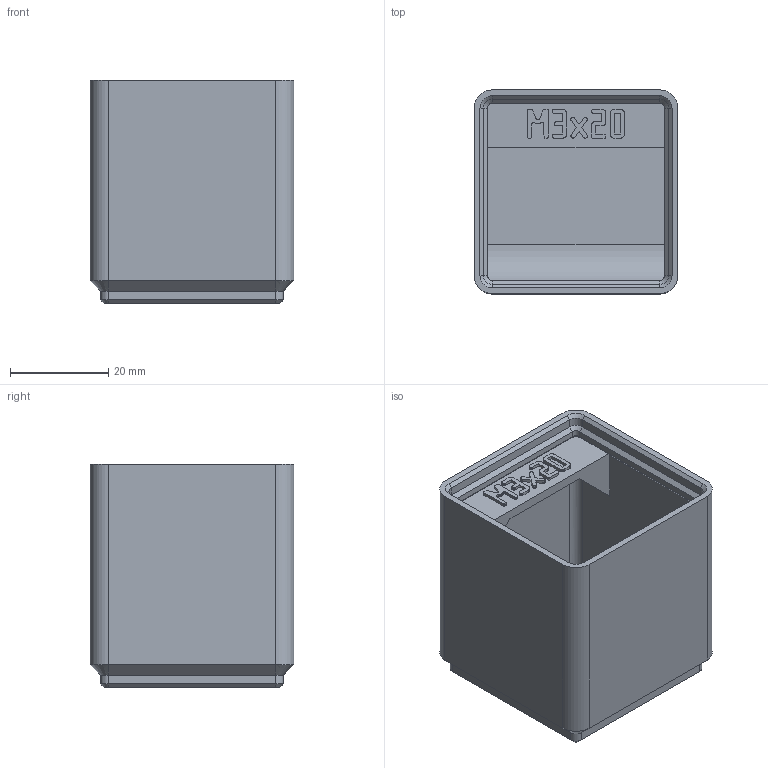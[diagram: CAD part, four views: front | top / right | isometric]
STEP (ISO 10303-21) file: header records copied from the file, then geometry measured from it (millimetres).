
FILE_DESCRIPTION(('Open CASCADE Model'),'2;1');
FILE_NAME('Open CASCADE Shape Model','2026-11-03T10:36:13',('Author'),( 'Open CASCADE'),'Open CASCADE STEP processor 8.0','build123d', 'Unknown');
FILE_SCHEMA(('AUTOMOTIVE_DESIGN { 1 0 10303 214 1 1 1 1 }'));
Length unit declared in the file: millimetre
Products named in the file (1): COMPOUND
Bounding box: 41.5 x 41.5 x 45.55 mm (x, y, z)
Volume: 24945.9 mm3; surface area: 16513.3 mm2
Topology: 1 solids, 1 shells, 617 faces, 1764 edges, 1156 vertices
Faces by surface type: plane 576, cylinder 21, cone 20
Entity records: 41641 total; most frequent: CARTESIAN_POINT 8652, DIRECTION 5303, LINE 3952, VECTOR 3952, ORIENTED_EDGE 3528, PCURVE 3528, DEFINITIONAL_REPRESENTATION 3528, EDGE_CURVE 1764
